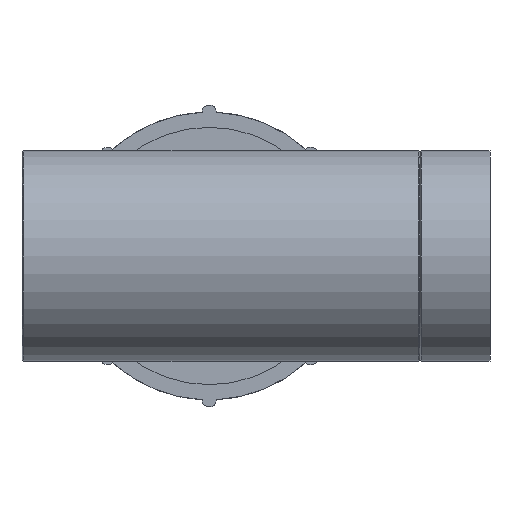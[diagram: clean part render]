
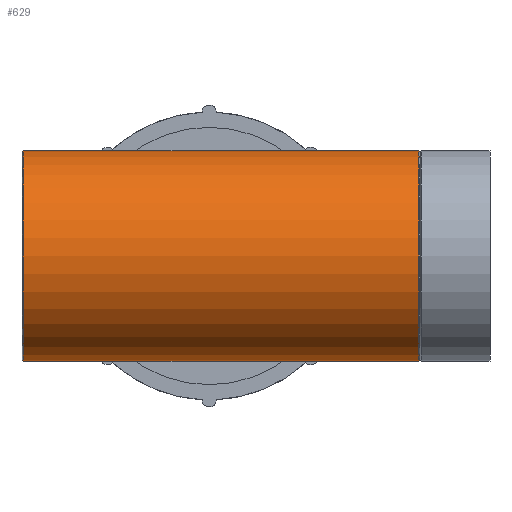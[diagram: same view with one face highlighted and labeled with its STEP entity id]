
A CAD part, left-side view. The second image highlights one B-rep face of the part: STEP entity #629.
In plain terms, the highlighted cylindrical face has radius 45 mm (diameter 90 mm), a full revolution.
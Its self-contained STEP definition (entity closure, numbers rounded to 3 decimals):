
#88=ELLIPSE($,#679,63.64,45.);
#89=ELLIPSE($,#680,63.64,45.);
#92=CYLINDRICAL_SURFACE($,#678,45.);
#113=FACE_BOUND($,#178,.T.);
#114=FACE_BOUND($,#179,.T.);
#115=FACE_BOUND($,#180,.T.);
#178=EDGE_LOOP($,(#428,#429));
#179=EDGE_LOOP($,(#430));
#180=EDGE_LOOP($,(#431));
#236=CIRCLE($,#674,45.);
#238=CIRCLE($,#677,45.);
#280=VERTEX_POINT($,#968);
#282=VERTEX_POINT($,#973);
#283=VERTEX_POINT($,#976);
#284=VERTEX_POINT($,#977);
#344=EDGE_CURVE($,#280,#280,#236,.T.);
#346=EDGE_CURVE($,#282,#282,#238,.T.);
#347=EDGE_CURVE($,#283,#284,#88,.T.);
#348=EDGE_CURVE($,#284,#283,#89,.T.);
#428=ORIENTED_EDGE($,*,*,#347,.T.);
#429=ORIENTED_EDGE($,*,*,#348,.T.);
#430=ORIENTED_EDGE($,*,*,#346,.T.);
#431=ORIENTED_EDGE($,*,*,#344,.T.);
#629=ADVANCED_FACE($,(#113,#114,#115),#92,.T.);
#674=AXIS2_PLACEMENT_3D($,#969,#771,#772);
#677=AXIS2_PLACEMENT_3D($,#974,#777,#778);
#678=AXIS2_PLACEMENT_3D($,#975,#779,#780);
#679=AXIS2_PLACEMENT_3D($,#978,#781,#782);
#680=AXIS2_PLACEMENT_3D($,#979,#783,#784);
#771=DIRECTION('center_axis',(0.,1.,0.));
#772=DIRECTION('ref_axis',(1.,0.,0.));
#777=DIRECTION('center_axis',(0.,-1.,0.));
#778=DIRECTION('ref_axis',(1.,0.,0.));
#779=DIRECTION('center_axis',(0.,1.,0.));
#780=DIRECTION('ref_axis',(1.,0.,0.));
#781=DIRECTION('center_axis',(-0.707,-0.707,0.));
#782=DIRECTION('ref_axis',(0.707,-0.707,0.));
#783=DIRECTION('center_axis',(-0.707,0.707,0.));
#784=DIRECTION('ref_axis',(-0.707,-0.707,0.));
#968=CARTESIAN_POINT('',(0.,30.52,45.));
#969=CARTESIAN_POINT('Origin',(0.,30.52,0.));
#973=CARTESIAN_POINT('',(0.,199.48,45.));
#974=CARTESIAN_POINT('Origin',(0.,199.48,0.));
#975=CARTESIAN_POINT('Origin',(0.,0.,0.));
#976=CARTESIAN_POINT('',(0.,120.,-45.));
#977=CARTESIAN_POINT('',(0.,120.,45.));
#978=CARTESIAN_POINT('Origin',(0.,120.,0.));
#979=CARTESIAN_POINT('Origin',(0.,120.,0.));
